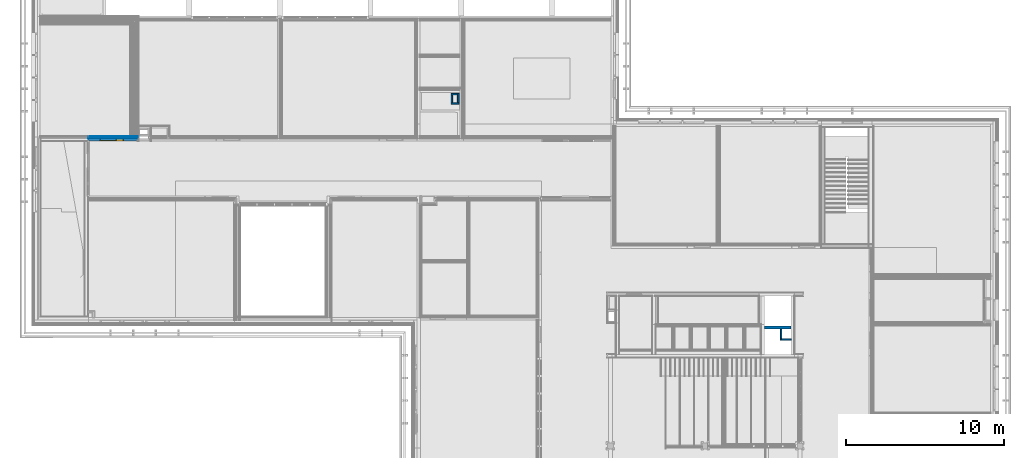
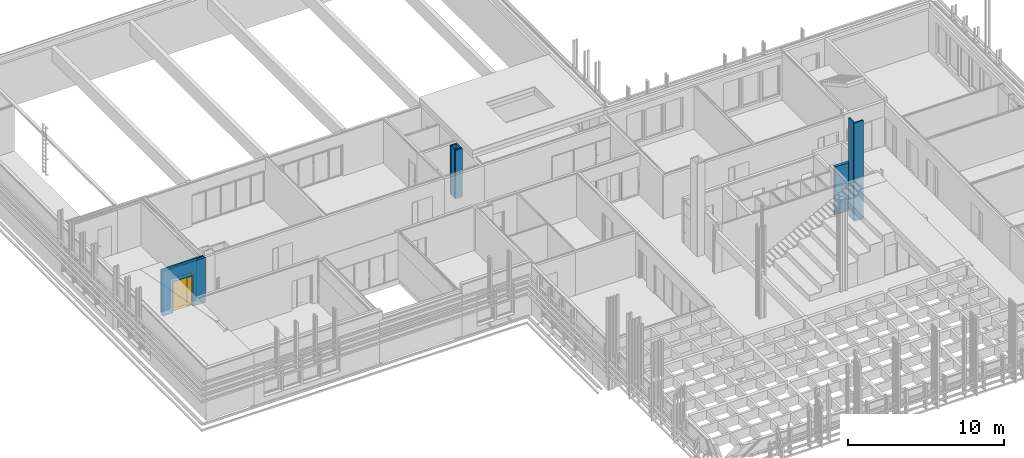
# One storey, part 56 of 139: 7 building element parts, 7 walls, 1 door, 1 opening, 1 element without a shape of its own.
"""IFC2X3 building model written with IfcOpenShell, lengths in millimetres."""

from ifc_helpers import new_model, entity, si_unit, converted_unit, derived_unit, money_unit, direction, frame, origin_with_axes, place, context, subcontext, project, spatial, open_shell, faceted_brep, surface_model, source, transform, mapped, material, type_object, element, fill, aggregate, save


model = new_model("IFC2X3")

# Units and contexts
model_context = context("Model", 3, precision=0.01, world=origin_with_axes(), true_north=direction((0.0, 1.0)))
body_context = subcontext(model_context, "Body", "Model", "MODEL_VIEW")
ifc_project = project(units=[si_unit("LENGTHUNIT", "METRE", prefix="MILLI"), si_unit("AREAUNIT", "SQUARE_METRE"), si_unit("VOLUMEUNIT", "CUBIC_METRE"), converted_unit("PLANEANGLEUNIT", "DEGREE", entity("IfcPlaneAngleMeasure", 0.0174532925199), si_unit("PLANEANGLEUNIT", "RADIAN"), dimensions=[0, 0, 0, 0, 0, 0, 0]), money_unit("EUR"), converted_unit("TIMEUNIT", "Year", entity("IfcTimeMeasure", 31556926.0), si_unit("TIMEUNIT", "SECOND"), dimensions=[0, 0, 1, 0, 0, 0, 0]), si_unit("MASSUNIT", "GRAM", prefix="KILO"), si_unit("THERMODYNAMICTEMPERATUREUNIT", "DEGREE_CELSIUS"), si_unit("LUMINOUSINTENSITYUNIT", "LUMEN"), si_unit("ENERGYUNIT", "JOULE", prefix="MEGA"), derived_unit("THERMALCONDUCTANCEUNIT", [(si_unit("POWERUNIT", "WATT"), 1), (si_unit("LENGTHUNIT", "METRE"), -1), (si_unit("THERMODYNAMICTEMPERATUREUNIT", "KELVIN"), -1)]), derived_unit("SPECIFICHEATCAPACITYUNIT", [(si_unit("ENERGYUNIT", "JOULE"), 1), (si_unit("MASSUNIT", "GRAM", prefix="KILO"), -1), (si_unit("THERMODYNAMICTEMPERATUREUNIT", "KELVIN"), -1)]), derived_unit("MASSDENSITYUNIT", [(si_unit("MASSUNIT", "GRAM", prefix="KILO"), 1), (si_unit("VOLUMEUNIT", "CUBIC_METRE"), -1)])], contexts=[model_context])

# Site, building, storey
site_placement = place(None, origin_with_axes())
site = spatial("IfcSite", under=ifc_project, at=site_placement, Name="Kolde pst 67a", CompositionType="ELEMENT")
building_placement = place(site_placement, origin_with_axes())
building = spatial("IfcBuilding", under=site, at=building_placement, Name="Riigigümnaasium", CompositionType="ELEMENT")
storey_placement = place(building_placement, frame((0.0, 0.0, 4600.0), z_axis=(0.0, 0.0, 1.0), x_axis=(1.0, 0.0, 0.0)))
storey = spatial("IfcBuildingStorey", under=building, at=storey_placement, Name="2. korrus", CompositionType="ELEMENT", Elevation=4600.0)

# Wall
ifc_material_1 = material(Name="_KANDETARIND - kergplokk Fibo3 200mm")
wall_type_1 = type_object("IfcWallType", Name="SS-KP-20/3_plokksein viimistluseta 200", PredefinedType="NOTDEFINED")
wall_1_placement = place(storey_placement, frame((45974.9854607, 47669.9999599, 0.0), z_axis=(0.0, 0.0, 1.0), x_axis=(1.0, 0.0, 0.0)))
element("IfcWall", 1, at=wall_1_placement, inside=storey, type_object=wall_type_1, material=ifc_material_1, Name="Sisesein", context=body_context, shape_type="Brep", body=[
    faceted_brep([(0.0, -200.0, 3750.0), (1700.00000022, -200.0, 3750.0), (1700.00000022, 0.0, 3750.0), (0.0, 0.0, 3750.0), (0.0, -200.0, 0.0), (1700.00000022, -200.0, 0.0), (1700.00000022, 0.0, 0.0), (0.0, 0.0, 0.0)], [[[0, 1, 2, 3]], [[4, 5, 1, 0]], [[2, 1, 5, 6]], [[3, 2, 6, 7]], [[4, 0, 3, 7]], [[7, 6, 5, 4]]]),
])

# Door
door_style = type_object("IfcDoorStyle", Name="Door with Sidelight on Side 2 25", ConstructionType="NOTDEFINED", OperationType="SINGLE_SWING_RIGHT", ParameterTakesPrecedence=False, Sizeable=False)
shared_shape = source(origin_with_axes(), body_context, "Body", "SurfaceModel", [
    faceted_brep([(-750.0, 0.0, 0.0), (-710.0, 0.0, 0.0), (-710.0, -115.0, 0.0), (-750.0, -115.0, 0.0), (-750.0, 0.0, 2260.0), (-710.0, 0.0, 2260.0), (-710.0, 0.0, 40.0), (-710.0, -115.0, 40.0), (-710.0, -115.0, 2260.0), (-750.0, -115.0, 2260.0)], [[[0, 1, 2, 3]], [[0, 4, 5, 6, 1]], [[1, 6, 7, 2]], [[3, 2, 7, 8, 9]], [[4, 0, 3, 9]], [[5, 4, 9, 8]], [[6, 5, 8, 7]]]),
    faceted_brep([(-250.0, -40.0, 0.0), (-250.0, -40.0, 2260.0), (-250.0, -115.0, 2260.0), (-250.0, -115.0, 0.0), (-262.0, -40.0, 2260.0), (-262.0, -40.0, 0.0), (-262.0, 0.0, 2260.0), (-290.0, 0.0, 2260.0), (-290.0, -115.0, 2260.0), (-290.0, -115.0, 0.0), (-290.0, -115.0, 40.0), (-290.0, 0.0, 0.0), (-262.0, 0.0, 0.0), (-290.0, 0.0, 40.0)], [[[0, 1, 2, 3]], [[4, 1, 0, 5]], [[4, 6, 7, 8, 2, 1]], [[9, 3, 2, 8, 10]], [[5, 0, 3, 9, 11, 12]], [[6, 4, 5, 12]], [[6, 12, 11, 13, 7]], [[13, 10, 8, 7]], [[11, 9, 10, 13]]]),
    faceted_brep([(-710.0, 0.0, 40.0), (-710.0, 0.0, 0.0), (-710.0, -115.0, 0.0), (-710.0, -115.0, 40.0), (-290.0, 0.0, 40.0), (-290.0, 0.0, 0.0), (-290.0, -115.0, 0.0), (-290.0, -115.0, 40.0)], [[[0, 1, 2, 3]], [[0, 4, 5, 1]], [[1, 5, 6, 2]], [[3, 2, 6, 7]], [[4, 0, 3, 7]], [[5, 4, 7, 6]]]),
    faceted_brep([(722.0, -40.0, 2260.0), (710.0, -40.0, 2260.0), (710.0, -115.0, 2260.0), (750.0, -115.0, 2260.0), (750.0, 0.0, 2260.0), (722.0, 0.0, 2260.0), (722.0, -40.0, 0.0), (710.0, -40.0, 0.0), (710.0, -115.0, 0.0), (750.0, -115.0, 0.0), (750.0, 0.0, 0.0), (722.0, 0.0, 0.0)], [[[0, 1, 2, 3, 4, 5]], [[1, 0, 6, 7]], [[1, 7, 8, 2]], [[3, 2, 8, 9]], [[4, 3, 9, 10]], [[11, 5, 4, 10]], [[0, 5, 11, 6]], [[6, 11, 10, 9, 8, 7]]]),
    faceted_brep([(-262.0, 0.0, 2272.0), (-262.0, 0.0, 2260.0), (-290.0, 0.0, 2260.0), (-710.0, 0.0, 2260.0), (-750.0, 0.0, 2260.0), (-750.0, 0.0, 2300.0), (750.0, 0.0, 2300.0), (750.0, 0.0, 2260.0), (722.0, 0.0, 2260.0), (722.0, 0.0, 2272.0), (-262.0, -40.0, 2272.0), (-262.0, -40.0, 2260.0), (710.0, -40.0, 2260.0), (710.0, -115.0, 2260.0), (-250.0, -115.0, 2260.0), (-290.0, -115.0, 2260.0), (-710.0, -115.0, 2260.0), (-750.0, -115.0, 2260.0), (-750.0, -115.0, 2300.0), (750.0, -115.0, 2300.0), (750.0, -115.0, 2260.0), (722.0, -40.0, 2260.0), (722.0, -40.0, 2272.0)], [[[0, 1, 2, 3, 4, 5, 6, 7, 8, 9]], [[1, 0, 10, 11]], [[11, 12, 13, 14, 15, 2, 1]], [[2, 15, 16, 3]], [[3, 16, 17, 4]], [[4, 17, 18, 5]], [[5, 18, 19, 6]], [[6, 19, 20, 7]], [[21, 8, 7, 20, 13, 12]], [[9, 8, 21, 22]], [[0, 9, 22, 10]], [[21, 12, 11, 10, 22]], [[13, 20, 19, 18, 17, 16, 15, 14]]]),
    faceted_brep([(722.0, 0.0, 200.0), (722.0, -40.0, 200.0), (622.0, -40.0, 200.0), (622.0, 0.0, 200.0), (722.0, 0.0, 2172.0), (722.0, -40.0, 2172.0), (622.0, -40.0, 2172.0), (622.0, 0.0, 2172.0)], [[[0, 1, 2, 3]], [[4, 5, 1, 0]], [[1, 5, 6, 2]], [[3, 2, 6, 7]], [[0, 3, 7, 4]], [[7, 6, 5, 4]]]),
    faceted_brep([(-262.0, 0.0, 200.0), (-262.0, -40.0, 200.0), (-262.0, -40.0, 2172.0), (-262.0, 0.0, 2172.0), (-162.0, 0.0, 200.0), (-162.0, -40.0, 200.0), (-162.0, -40.0, 2172.0), (-162.0, 0.0, 2172.0)], [[[0, 1, 2, 3]], [[4, 5, 1, 0]], [[1, 5, 6, 2]], [[3, 2, 6, 7]], [[0, 3, 7, 4]], [[7, 6, 5, 4]]]),
    faceted_brep([(722.0, 0.0, 0.0), (722.0, -40.0, 0.0), (-262.0, -40.0, 0.0), (-262.0, 0.0, 0.0), (722.0, 0.0, 200.0), (722.0, -40.0, 200.0), (622.0, -40.0, 200.0), (-162.0, -40.0, 200.0), (-262.0, -40.0, 200.0), (-262.0, 0.0, 200.0), (-162.0, 0.0, 200.0), (622.0, 0.0, 200.0)], [[[0, 1, 2, 3]], [[4, 5, 1, 0]], [[1, 5, 6, 7, 8, 2]], [[3, 2, 8, 9]], [[0, 3, 9, 10, 11, 4]], [[11, 6, 5, 4]], [[10, 7, 6, 11]], [[9, 8, 7, 10]]]),
    faceted_brep([(722.0, 0.0, 2272.0), (722.0, -40.0, 2272.0), (722.0, -40.0, 2172.0), (722.0, 0.0, 2172.0), (-262.0, 0.0, 2272.0), (-262.0, -40.0, 2272.0), (-262.0, -40.0, 2172.0), (-162.0, -40.0, 2172.0), (622.0, -40.0, 2172.0), (622.0, 0.0, 2172.0), (-162.0, 0.0, 2172.0), (-262.0, 0.0, 2172.0)], [[[0, 1, 2, 3]], [[4, 5, 1, 0]], [[1, 5, 6, 7, 8, 2]], [[3, 2, 8, 9]], [[0, 3, 9, 10, 11, 4]], [[11, 6, 5, 4]], [[10, 7, 6, 11]], [[9, 8, 7, 10]]]),
    surface_model("IfcShellBasedSurfaceModel", [(622.0, -14.0, 200.0), (-162.0, -14.0, 200.0), (-162.0, -14.0, 2172.0), (622.0, -14.0, 2172.0)], [open_shell([[[0, 1, 2, 3]]])]),
    surface_model("IfcShellBasedSurfaceModel", [(622.0, -26.0, 200.0), (622.0, -26.0, 2172.0), (-162.0, -26.0, 2172.0), (-162.0, -26.0, 200.0)], [open_shell([[[0, 1, 2, 3]]])]),
    surface_model("IfcShellBasedSurfaceModel", [(-710.0, -91.0, 40.0), (-710.0, -91.0, 2260.0), (-290.0, -91.0, 2260.0), (-290.0, -91.0, 40.0)], [open_shell([[[0, 1, 2, 3]]])]),
    surface_model("IfcShellBasedSurfaceModel", [(-710.0, -103.0, 40.0), (-290.0, -103.0, 40.0), (-290.0, -103.0, 2260.0), (-710.0, -103.0, 2260.0)], [open_shell([[[0, 1, 2, 3]]])]),
])
wall_8_placement = place(storey_placement, frame((6376.99872362, 59349.9979478, -130.0), z_axis=(0.0, 0.0, 1.0), x_axis=(-1.0, 0.0, 0.0)))
opening_placement = place(wall_8_placement, frame((1642.00042249, 0.0, 130.0), z_axis=(0.0, 0.0, 1.0), x_axis=(1.0, 0.0, 0.0)))
door_placement = place(opening_placement, frame((-750.0, 0.0, 0.0), z_axis=(0.0, 0.0, 1.0), x_axis=(1.0, 0.0, 0.0)))
door = element("IfcDoor", 2, at=door_placement, inside=storey, type_object=door_style, Name="Siseuks", ObjectType="DOOR", OverallHeight=2300.0, OverallWidth=1500.0, context=body_context, shape_type="MappedRepresentation", body=[
    mapped(shared_shape, transform((750.0, 0.0, 0.0))),
])

# Walls
ifc_material_2 = material(Name="_KANDETARIND - kergplokk Fibo 100mm")
wall_type_2 = type_object("IfcWallType", Name="SS-KP-10/3_viimistluseta 100", PredefinedType="NOTDEFINED")
wall_2_placement = place(storey_placement, frame((46994.9847074, 46769.9999614, -425.0), z_axis=(0.0, 0.0, 1.0), x_axis=(1.0, 0.0, 0.0)))
element("IfcWall", 3, at=wall_2_placement, inside=storey, type_object=wall_type_2, material=ifc_material_2, Name="SE šaht", context=body_context, shape_type="Brep", body=[
    faceted_brep([(680.000753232, 100.0, 0.0), (680.000753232, 0.0, 0.0), (0.0, 0.0, 0.0), (0.0, 100.0, 0.0), (680.000753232, 100.0, 7674.99999523), (680.000753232, 0.0, 7674.99999523), (0.0, 0.0, 7674.99999523), (0.0, 100.0, 7674.99999523)], [[[0, 1, 2, 3]], [[0, 4, 5, 1]], [[1, 5, 6, 2]], [[3, 2, 6, 7]], [[4, 0, 3, 7]], [[5, 4, 7, 6]]]),
])
wall_3_placement = place(storey_placement, frame((46994.9847074, 47471.3382495, -425.0), z_axis=(0.0, 0.0, 1.0), x_axis=(0.0, -1.0, 0.0)))
element("IfcWall", 4, at=wall_3_placement, inside=storey, type_object=wall_type_2, material=ifc_material_2, Name="SE šaht", context=body_context, shape_type="Brep", body=[
    faceted_brep([(601.338288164, 0.0, 0.0), (0.0, 0.0, 0.0), (0.0, 100.0, 0.0), (601.338288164, 100.0, 0.0), (601.338288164, 0.0, 7674.99999523), (0.0, 0.0, 7674.99999523), (0.0, 100.0, 7674.99999523), (601.338288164, 100.0, 7674.99999523)], [[[0, 1, 2, 3]], [[4, 5, 1, 0]], [[2, 1, 5, 6]], [[3, 2, 6, 7]], [[3, 7, 4, 0]], [[7, 6, 5, 4]]]),
])
wall_4_placement = place(storey_placement, frame((26179.9984748, 61671.1834921, -425.0), z_axis=(0.0, 0.0, 1.0), x_axis=(1.0, -3.77273464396e-09, 0.0)))
element("IfcWall", 5, at=wall_4_placement, inside=storey, type_object=wall_type_2, material=ifc_material_2, Name="SE šaht", context=body_context, shape_type="Brep", body=[
    faceted_brep([(500.000755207, 1.88637017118e-06, 0.0), (0.0, 0.0, 0.0), (0.0, 100.0, 0.0), (500.00075483, 100.000001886, 0.0), (500.000755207, 1.88637017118e-06, 3804.0), (0.0, 0.0, 3804.0), (0.0, 100.0, 3804.0), (500.00075483, 100.000001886, 3804.0)], [[[0, 1, 2, 3]], [[4, 5, 1, 0]], [[2, 1, 5, 6]], [[3, 2, 6, 7]], [[3, 7, 4, 0]], [[7, 6, 5, 4]]]),
])
wall_5_placement = place(storey_placement, frame((26679.99923, 61671.1834902, -425.0), z_axis=(0.0, 0.0, 1.0), x_axis=(0.0, 1.0, 0.0)))
element("IfcWall", 6, at=wall_5_placement, inside=storey, type_object=wall_type_2, material=ifc_material_2, Name="SE šaht", context=body_context, shape_type="Brep", body=[
    faceted_brep([(699.999463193, 0.0, 0.0), (100.0, 0.0, 0.0), (100.000000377, 100.0, 0.0), (699.99946357, 100.0, 0.0), (699.999463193, 0.0, 3804.0), (100.0, 0.0, 3804.0), (100.000000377, 100.0, 3804.0), (699.99946357, 100.0, 3804.0)], [[[0, 1, 2, 3]], [[4, 5, 1, 0]], [[2, 1, 5, 6]], [[3, 2, 6, 7]], [[3, 7, 4, 0]], [[7, 6, 5, 4]]]),
])
wall_6_placement = place(storey_placement, frame((26679.99923, 62371.1829534, -425.0), z_axis=(0.0, 0.0, 1.0), x_axis=(-1.0, 3.77272045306e-09, 0.0)))
element("IfcWall", 7, at=wall_6_placement, inside=storey, type_object=wall_type_2, material=ifc_material_2, Name="SE šaht", context=body_context, shape_type="Brep", body=[
    faceted_brep([(500.000752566, 1.88636306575e-06, 0.0), (100.0, 3.77276876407e-07, 0.0), (99.9999996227, 100.000000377, 0.0), (500.000752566, 100.000001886, 0.0), (500.000752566, 1.88636306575e-06, 3804.0), (100.0, 3.77276876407e-07, 3804.0), (99.9999996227, 100.000000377, 3804.0), (500.000752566, 100.000001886, 3804.0)], [[[0, 1, 2, 3]], [[4, 5, 1, 0]], [[2, 1, 5, 6]], [[3, 2, 6, 7]], [[3, 7, 4, 0]], [[7, 6, 5, 4]]]),
])
wall_7_placement = place(storey_placement, frame((26179.9984774, 62371.1829553, -425.0), z_axis=(0.0, 0.0, 1.0), x_axis=(-3.77273105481e-09, -1.0, 0.0)))
element("IfcWall", 8, at=wall_7_placement, inside=storey, type_object=wall_type_2, material=ifc_material_2, Name="SE šaht", context=body_context, shape_type="Brep", body=[
    faceted_brep([(599.999463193, 2.26363638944e-06, 0.0), (100.0, 3.77273323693e-07, 0.0), (100.0, 100.000000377, 0.0), (599.999463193, 100.000002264, 0.0), (599.999463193, 2.26363638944e-06, 3804.0), (100.0, 3.77273323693e-07, 3804.0), (100.0, 100.000000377, 3804.0), (599.999463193, 100.000002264, 3804.0)], [[[0, 1, 2, 3]], [[4, 5, 1, 0]], [[2, 1, 5, 6]], [[3, 2, 6, 7]], [[3, 7, 4, 0]], [[7, 6, 5, 4]]]),
])

# Wall, opening
wall_type_3 = type_object("IfcWallType", Name="SS-CLT-16/1_vill75+krohv 52 dB 300", PredefinedType="NOTDEFINED")
wall_8 = element("IfcWall", 9, at=wall_8_placement, inside=storey, type_object=wall_type_3, Name="Sisesein")
opening = element("IfcOpeningElement", 10, at=opening_placement, cuts=wall_8, Name="Siseuks", context=body_context, shape_type="Brep", body=[
    faceted_brep([(750.0, -300.0, 2300.0), (750.0, -300.0, 0.0), (750.0, 600.0, 0.0), (750.0, 600.0, 2300.0), (-750.0, -300.0, 2300.0), (-750.0, -300.0, 0.0), (-750.0, 600.0, 0.0), (-750.0, 600.0, 2300.0)], [[[0, 1, 2, 3]], [[0, 4, 5, 1]], [[1, 5, 6, 2]], [[3, 2, 6, 7]], [[4, 0, 3, 7]], [[5, 4, 7, 6]]]),
])

fill(opening, door)

# Building element part
ifc_material_3 = material(Name="_KANDETARIND - CLT ristkihtliimpuit vastavalt EK osale, CLT paigaldusvuugid teibitakse ROTHOBLAAS teibiga")
building_element_part_1_placement = place(wall_8_placement, origin_with_axes())
building_element_part_1 = element("IfcBuildingElementPart", 11, at=building_element_part_1_placement, material=ifc_material_3, Name="_KANDETARIND - CLT ristkihtliimpuit vastavalt EK osale, CLT paigaldusvuugid teibitakse ROTHOBLAAS teibiga", context=body_context, shape_type="Brep", body=[
    faceted_brep([(2392.00042249, -160.0, 2430.0), (2392.00042249, -160.0, 130.0), (2392.00042249, -160.0, 0.0), (3126.96104022, -160.0, 0.0), (3126.96104022, -160.0, 3510.0), (0.0, -160.0, 3510.0), (0.0, -160.0, 0.0), (892.000422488, -160.0, 0.0), (892.000422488, -160.0, 130.0), (892.000422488, -160.0, 2430.0), (2392.00042249, 0.0, 2430.0), (2392.00042249, 0.0, 130.0), (2392.00042249, 0.0, 0.0), (3126.96104022, 0.0, 0.0), (3126.96104022, 0.0, 3510.0), (0.0, 0.0, 3510.0), (0.0, 0.0, 0.0), (892.000422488, 0.0, 0.0), (892.000422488, 0.0, 130.0), (892.000422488, 0.0, 2430.0)], [[[0, 1, 2, 3, 4, 5, 6, 7, 8, 9]], [[1, 0, 10, 11]], [[1, 11, 12, 2]], [[12, 13, 3, 2]], [[4, 3, 13, 14]], [[4, 14, 15, 5]], [[5, 15, 16, 6]], [[7, 6, 16, 17]], [[18, 8, 7, 17]], [[9, 8, 18, 19]], [[0, 9, 19, 10]], [[19, 18, 17, 16, 15, 14, 13, 12, 11, 10]]]),
])

ifc_material_4 = material(Name="_ÕHKVAHE")
building_element_part_2_placement = place(wall_8_placement, origin_with_axes())
building_element_part_2 = element("IfcBuildingElementPart", 12, at=building_element_part_2_placement, material=ifc_material_4, Name="_ÕHKVAHE", context=body_context, shape_type="Brep", body=[
    faceted_brep([(2392.00042249, -175.0, 2430.0), (2392.00042249, -175.0, 130.0), (2392.00042249, -175.0, 127.0), (3126.96104022, -175.0, 127.0), (3126.96104022, -175.0, 3510.0), (0.0, -175.0, 3510.0), (0.0, -175.0, 3509.00001076), (435.000016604, -175.0, 3509.00001076), (435.000016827, -175.0, 127.0), (892.000422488, -175.0, 127.0), (892.000422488, -175.0, 130.0), (892.000422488, -175.0, 2430.0), (2392.00042249, -160.0, 2430.0), (2392.00042249, -160.0, 130.0), (2392.00042249, -160.0, 127.0), (3126.96104022, -160.0, 127.0), (3126.96104022, -160.0, 3510.0), (0.0, -160.0, 3510.0), (0.0, -160.0, 3509.00001076), (435.0, -160.0, 3509.00001076), (435.000000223, -160.0, 127.0), (892.000422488, -160.0, 127.0), (892.000422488, -160.0, 130.0), (892.000422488, -160.0, 2430.0)], [[[0, 1, 2, 3, 4, 5, 6, 7, 8, 9, 10, 11]], [[1, 0, 12, 13]], [[1, 13, 14, 2]], [[14, 15, 3, 2]], [[15, 16, 4, 3]], [[5, 4, 16, 17]], [[18, 6, 5, 17]], [[6, 18, 19, 7]], [[8, 7, 19, 20]], [[9, 8, 20, 21]], [[22, 10, 9, 21]], [[11, 10, 22, 23]], [[0, 11, 23, 12]], [[23, 22, 21, 20, 19, 18, 17, 16, 15, 14, 13, 12]]]),
])

ifc_material_5 = material(Name="_KARKASS - metallkarkass CW 75/50/06 ja UW 75/40/06, samm 600, vahel mineraalvill, helineeldetegur αw = 1.0,  ISOVER ACOUSTIC 75mm või samaväärne")
building_element_part_3_placement = place(wall_8_placement, origin_with_axes())
building_element_part_3 = element("IfcBuildingElementPart", 13, at=building_element_part_3_placement, material=ifc_material_5, Name="_KARKASS - metallkarkass CW 75/50/06 ja UW 75/40/06, samm 600, vahel mineraalvill, helineeldetegur αw = 1.0,  ISOVER ACOUSTIC 75mm või samaväärne", context=body_context, shape_type="Brep", body=[
    faceted_brep([(2392.00042249, -250.0, 2430.0), (2392.00042249, -250.0, 130.0), (2392.00042249, -250.0, 127.0), (3126.96104022, -250.0, 127.0), (3126.96104022, -250.0, 3510.0), (0.0, -250.0, 3510.0), (0.0, -250.0, 3509.00001076), (435.000099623, -250.0, 3509.00001076), (435.000099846, -250.0, 127.0), (892.000422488, -250.0, 127.0), (892.000422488, -250.0, 130.0), (892.000422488, -250.0, 2430.0), (2392.00042249, -175.0, 2430.0), (2392.00042249, -175.0, 130.0), (2392.00042249, -175.0, 127.0), (3126.96104022, -175.0, 127.0), (3126.96104022, -175.0, 3510.0), (0.0, -175.0, 3510.0), (0.0, -175.0, 3509.00001076), (435.000016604, -175.0, 3509.00001076), (435.000016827, -175.0, 127.0), (892.000422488, -175.0, 127.0), (892.000422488, -175.0, 130.0), (892.000422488, -175.0, 2430.0)], [[[0, 1, 2, 3, 4, 5, 6, 7, 8, 9, 10, 11]], [[1, 0, 12, 13]], [[1, 13, 14, 2]], [[14, 15, 3, 2]], [[15, 16, 4, 3]], [[5, 4, 16, 17]], [[18, 6, 5, 17]], [[6, 18, 19, 7]], [[8, 7, 19, 20]], [[9, 8, 20, 21]], [[22, 10, 9, 21]], [[11, 10, 22, 23]], [[0, 11, 23, 12]], [[23, 22, 21, 20, 19, 18, 17, 16, 15, 14, 13, 12]]]),
])

ifc_material_6 = material(Name="_PLAATMATERJAL - OSB3 plaat")
building_element_part_4_placement = place(wall_8_placement, origin_with_axes())
building_element_part_4 = element("IfcBuildingElementPart", 14, at=building_element_part_4_placement, material=ifc_material_6, Name="_PLAATMATERJAL - OSB3 plaat", context=body_context, shape_type="Brep", body=[
    faceted_brep([(2392.00042249, -260.0, 2430.0), (2392.00042249, -260.0, 130.0), (2392.00042249, -260.0, 127.0), (3126.96104022, -260.0, 127.0), (3126.96104022, -260.0, 3510.0), (0.0, -260.0, 3510.0), (0.0, -260.0, 3509.00001076), (435.000110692, -260.0, 3509.00001076), (435.000110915, -260.0, 127.0), (892.000422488, -260.0, 127.0), (892.000422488, -260.0, 130.0), (892.000422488, -260.0, 2430.0), (2392.00042249, -250.0, 2430.0), (2392.00042249, -250.0, 130.0), (2392.00042249, -250.0, 127.0), (3126.96104022, -250.0, 127.0), (3126.96104022, -250.0, 3510.0), (0.0, -250.0, 3510.0), (0.0, -250.0, 3509.00001076), (435.000099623, -250.0, 3509.00001076), (435.000099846, -250.0, 127.0), (892.000422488, -250.0, 127.0), (892.000422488, -250.0, 130.0), (892.000422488, -250.0, 2430.0)], [[[0, 1, 2, 3, 4, 5, 6, 7, 8, 9, 10, 11]], [[1, 0, 12, 13]], [[1, 13, 14, 2]], [[14, 15, 3, 2]], [[15, 16, 4, 3]], [[5, 4, 16, 17]], [[18, 6, 5, 17]], [[6, 18, 19, 7]], [[8, 7, 19, 20]], [[9, 8, 20, 21]], [[22, 10, 9, 21]], [[11, 10, 22, 23]], [[0, 11, 23, 12]], [[23, 22, 21, 20, 19, 18, 17, 16, 15, 14, 13, 12]]]),
])

ifc_material_7 = material(Name="_PLAATMATERJAL - tuletõkkekipsplaat, Knauf Red GKF või samaväärne")
building_element_part_5_placement = place(wall_8_placement, origin_with_axes())
building_element_part_5 = element("IfcBuildingElementPart", 15, at=building_element_part_5_placement, material=ifc_material_7, Name="_PLAATMATERJAL - tuletõkkekipsplaat, Knauf Red GKF või samaväärne", context=body_context, shape_type="Brep", body=[
    faceted_brep([(2392.00042249, -275.0, 2430.0), (2392.00042249, -275.0, 130.0), (2392.00042249, -275.0, 127.0), (3126.96104022, -275.0, 127.0), (3126.96104022, -275.0, 3510.0), (0.0, -275.0, 3510.0), (0.0, -275.0, 3509.00001076), (435.000127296, -275.0, 3509.00001076), (435.000127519, -275.0, 127.0), (892.000422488, -275.0, 127.0), (892.000422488, -275.0, 130.0), (892.000422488, -275.0, 2430.0), (2392.00042249, -260.0, 2430.0), (2392.00042249, -260.0, 130.0), (2392.00042249, -260.0, 127.0), (3126.96104022, -260.0, 127.0), (3126.96104022, -260.0, 3510.0), (0.0, -260.0, 3510.0), (0.0, -260.0, 3509.00001076), (435.000110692, -260.0, 3509.00001076), (435.000110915, -260.0, 127.0), (892.000422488, -260.0, 127.0), (892.000422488, -260.0, 130.0), (892.000422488, -260.0, 2430.0)], [[[0, 1, 2, 3, 4, 5, 6, 7, 8, 9, 10, 11]], [[1, 0, 12, 13]], [[1, 13, 14, 2]], [[14, 15, 3, 2]], [[15, 16, 4, 3]], [[5, 4, 16, 17]], [[18, 6, 5, 17]], [[6, 18, 19, 7]], [[8, 7, 19, 20]], [[9, 8, 20, 21]], [[22, 10, 9, 21]], [[11, 10, 22, 23]], [[0, 11, 23, 12]], [[23, 22, 21, 20, 19, 18, 17, 16, 15, 14, 13, 12]]]),
])

building_element_part_6_placement = place(wall_8_placement, origin_with_axes())
building_element_part_6 = element("IfcBuildingElementPart", 16, at=building_element_part_6_placement, material=ifc_material_7, Name="_PLAATMATERJAL - tuletõkkekipsplaat, Knauf Red GKF või samaväärne", context=body_context, shape_type="Brep", body=[
    faceted_brep([(2392.00042249, -290.0, 2430.0), (2392.00042249, -290.0, 130.0), (2392.00042249, -290.0, 127.0), (3126.96104022, -290.0, 127.0), (3126.96104022, -290.0, 3510.0), (0.0, -290.0, 3510.0), (0.0, -290.0, 3509.00001076), (474.5001439, -290.0, 3509.00001076), (474.500142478, -290.0, 127.0), (892.000422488, -290.0, 127.0), (892.000422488, -290.0, 130.0), (892.000422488, -290.0, 2430.0), (2392.00042249, -275.0, 2430.0), (2392.00042249, -275.0, 130.0), (2392.00042249, -275.0, 127.0), (3126.96104022, -275.0, 127.0), (3126.96104022, -275.0, 3510.0), (0.0, -275.0, 3510.0), (0.0, -275.0, 3509.00001076), (474.500127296, -275.0, 3509.00001076), (474.500125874, -275.0, 127.0), (892.000422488, -275.0, 127.0), (892.000422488, -275.0, 130.0), (892.000422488, -275.0, 2430.0)], [[[0, 1, 2, 3, 4, 5, 6, 7, 8, 9, 10, 11]], [[1, 0, 12, 13]], [[1, 13, 14, 2]], [[14, 15, 3, 2]], [[15, 16, 4, 3]], [[5, 4, 16, 17]], [[18, 6, 5, 17]], [[18, 19, 7, 6]], [[8, 7, 19, 20]], [[9, 8, 20, 21]], [[22, 10, 9, 21]], [[11, 10, 22, 23]], [[0, 11, 23, 12]], [[23, 22, 21, 20, 19, 18, 17, 16, 15, 14, 13, 12]]]),
])

ifc_material_8 = material(Name="_VIIMISTLUSKIHT - viimistlus vastavalt SA osale")
building_element_part_7_placement = place(wall_8_placement, origin_with_axes())
building_element_part_7 = element("IfcBuildingElementPart", 17, at=building_element_part_7_placement, material=ifc_material_8, Name="_VIIMISTLUSKIHT - viimistlus vastavalt SA osale", context=body_context, shape_type="Brep", body=[
    faceted_brep([(2392.00042249, -300.0, 2430.0), (2392.00042249, -300.0, 130.0), (3126.96104022, -300.0, 130.0), (3126.96104022, -300.0, 3510.0), (0.0, -300.0, 3510.0), (0.0, -300.0, 3509.00001076), (487.000154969, -300.0, 3509.00001076), (487.000155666, -300.0, 130.0), (892.000422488, -300.0, 130.0), (892.000422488, -300.0, 2430.0), (2392.00042249, -290.0, 2430.0), (2392.00042249, -290.0, 130.0), (3126.96104022, -290.0, 130.0), (3126.96104022, -290.0, 3510.0), (0.0, -290.0, 3510.0), (0.0, -290.0, 3509.00001076), (487.0001439, -290.0, 3509.00001076), (487.000144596, -290.0, 130.0), (892.000422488, -290.0, 130.0), (892.000422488, -290.0, 2430.0)], [[[0, 1, 2, 3, 4, 5, 6, 7, 8, 9]], [[1, 0, 10, 11]], [[1, 11, 12, 2]], [[12, 13, 3, 2]], [[4, 3, 13, 14]], [[15, 5, 4, 14]], [[15, 16, 6, 5]], [[7, 6, 16, 17]], [[18, 8, 7, 17]], [[9, 8, 18, 19]], [[0, 9, 19, 10]], [[19, 18, 17, 16, 15, 14, 13, 12, 11, 10]]]),
])

aggregate(wall_8, [building_element_part_1, building_element_part_2, building_element_part_3, building_element_part_4, building_element_part_5, building_element_part_6, building_element_part_7])

save(model, "model.ifc")
